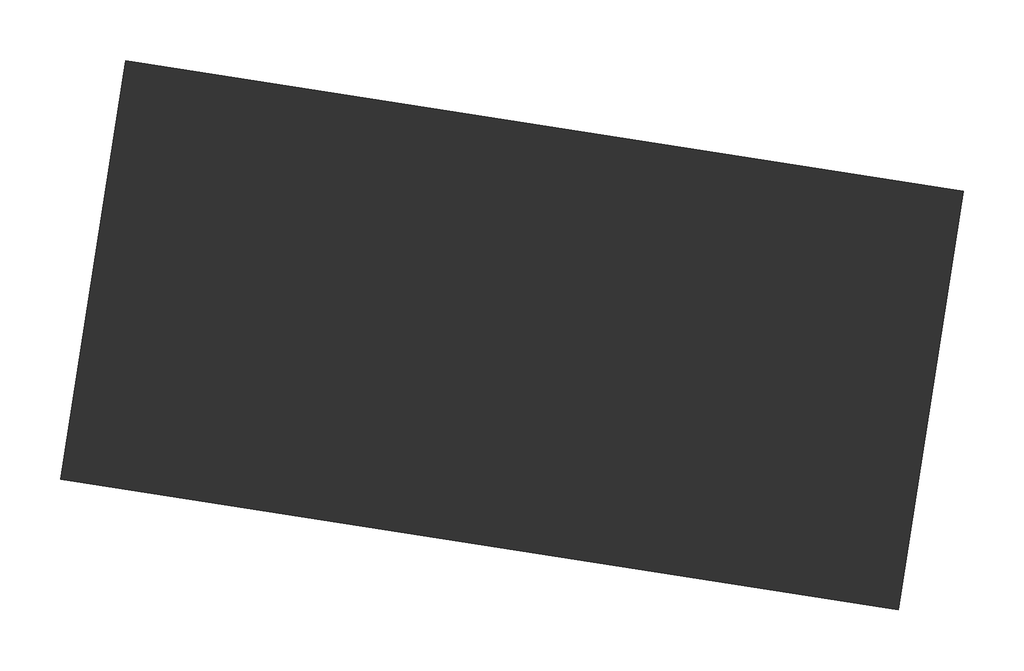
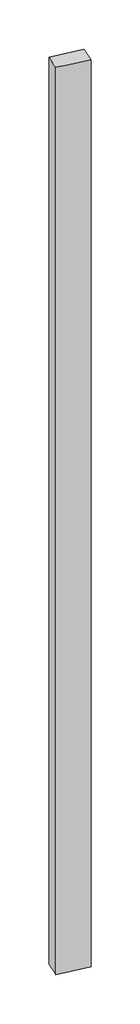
# One storey: 1 column.
"""IFC4 building model written with IfcOpenShell, lengths in millimetres."""

from ifc_helpers import new_model, si_unit, origin, place, context, project, spatial, faceted_brep, element, save

model = new_model("IFC4")

# Units and contexts
model_context = context("Model", 3, world=origin())
ifc_project = project(units=[si_unit("LENGTHUNIT", "METRE", prefix="MILLI")], contexts=[model_context])

# Site, building, storey
site = spatial("IfcSite", under=ifc_project)
building = spatial("IfcBuilding", under=site)
storey = spatial("IfcBuildingStorey", under=building, Name="FONDO CISTERNA", Elevation=-7900.0)

# Column
placement = place(None, origin())
element("IfcColumn", 1, ObjectType="M_Hormigón-Rectangular-Pilar : C3 (35 X 70)", at=placement, inside=storey, context=model_context, shape_type="Brep", body=[
    faceted_brep([(-32168.3264678, -77190.7024275, -7900.0), (-31941.0705218, -77226.1247005, -7900.0), (-31476.6779524, -77298.509343, -7900.0), (-31489.0348865, -77377.7867728, -7900.0), (-31527.5373564, -77624.8040997, -7900.0), (-31530.5814101, -77644.3336007, -7900.0), (-32222.2299256, -77536.5266852, -7900.0), (-32219.1858718, -77516.9971842, -7900.0), (-32168.3264678, -77190.7024275, -4807.0363821), (-32168.3264678, -77190.7024275, -3000.0), (-32168.3264678, -77190.7024275, -280.0), (-32168.3264678, -77190.7024275, 0.0), (-32168.3264678, -77190.7024275, 2920.0), (-32168.3264678, -77190.7024275, 3200.0), (-32168.3264678, -77190.7024275, 6400.0), (-32168.3264678, -77190.7024275, 9600.0), (-32168.3264678, -77190.7024275, 12520.0), (-31476.6779524, -77298.509343, 12520.0), (-31476.6779524, -77298.509343, 9600.0), (-31476.6779524, -77298.509343, 6400.0), (-31476.6779524, -77298.509343, 3200.0), (-31476.6779524, -77298.509343, 0.0), (-31530.5814101, -77644.3336007, 12520.0), (-32024.6160517, -77567.328663, 12520.0), (-32222.2299256, -77536.5266852, 12520.0), (-32222.2299256, -77536.5266852, 9600.0), (-32222.2299256, -77536.5266852, 9320.0), (-32222.2299256, -77536.5266852, 6400.0), (-32222.2299256, -77536.5266852, 6120.0), (-32222.2299256, -77536.5266852, 3200.0), (-32222.2299256, -77536.5266852, 2920.0), (-32222.2299256, -77536.5266852, 0.0), (-32209.8469793, -77457.0823714, 12520.0)], [[[0, 1, 2, 3, 4, 5, 6, 7]], [[2, 1, 0, 8, 9, 10, 11, 12, 13, 14, 15, 16, 17, 18, 19, 20, 21]], [[5, 4, 3, 2, 21, 20, 19, 18, 17, 22]], [[6, 5, 22, 23, 24, 25, 26, 27, 28, 29, 30, 31]], [[0, 7, 6, 31, 30, 29, 28, 27, 26, 25, 24, 32, 16, 15, 14, 13, 12, 11, 10, 9, 8]], [[17, 16, 32, 24, 23, 22]]]),
])

save(model, "model.ifc")
